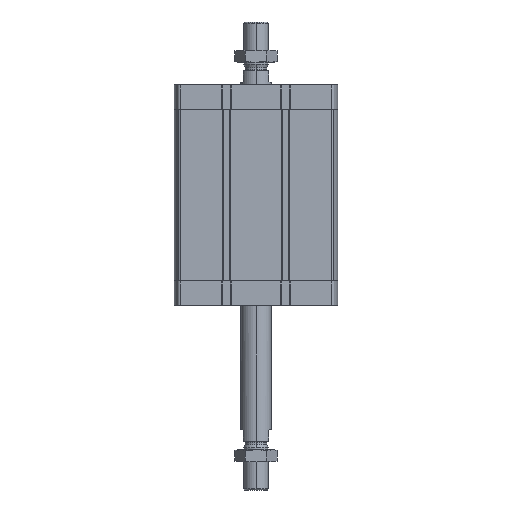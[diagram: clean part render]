
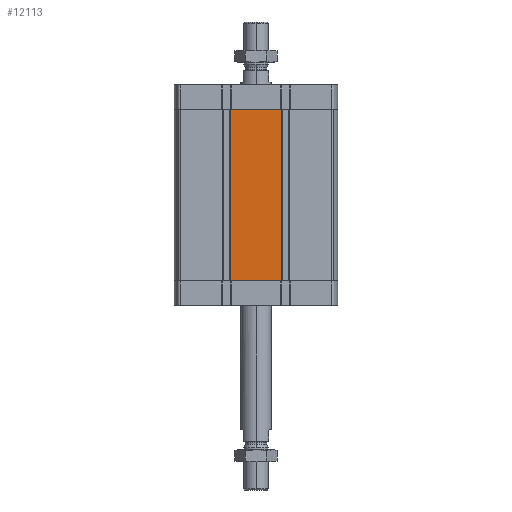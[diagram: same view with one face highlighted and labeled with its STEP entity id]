
A CAD part, left-side view. The second image highlights one B-rep face of the part: STEP entity #12113.
In plain terms, the highlighted planar face has unit normal (-1, 0, 0).
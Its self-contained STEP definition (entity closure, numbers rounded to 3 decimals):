
#19 = VECTOR ( 'NONE', #15857, 1000. ) ;
#93 = VERTEX_POINT ( 'NONE', #2193 ) ;
#130 = LINE ( 'NONE', #9329, #1867 ) ;
#664 = VERTEX_POINT ( 'NONE', #5922 ) ;
#1181 = EDGE_CURVE ( 'NONE', #4705, #7476, #130, .T. ) ;
#1824 = DIRECTION ( 'NONE',  ( -1., 0., 0. ) ) ;
#1867 = VECTOR ( 'NONE', #6550, 1000. ) ;
#2193 = CARTESIAN_POINT ( 'NONE',  ( -67., -20.687, -161. ) ) ;
#2558 = CARTESIAN_POINT ( 'NONE',  ( -67., 21.3, -161. ) ) ;
#3125 = VECTOR ( 'NONE', #19593, 1000. ) ;
#3220 = VECTOR ( 'NONE', #12132, 1000. ) ;
#4319 = EDGE_CURVE ( 'NONE', #12864, #4705, #18941, .T. ) ;
#4396 = VECTOR ( 'NONE', #9775, 1000. ) ;
#4437 = CARTESIAN_POINT ( 'NONE',  ( -67., 67., -161. ) ) ;
#4569 = AXIS2_PLACEMENT_3D ( 'NONE', #12339, #1824, #14208 ) ;
#4660 = EDGE_LOOP ( 'NONE', ( #19291, #5701, #14318, #15081, #9896, #17132, #9864, #6564 ) ) ;
#4705 = VERTEX_POINT ( 'NONE', #18921 ) ;
#5701 = ORIENTED_EDGE ( 'NONE', *, *, #10476, .T. ) ;
#5922 = CARTESIAN_POINT ( 'NONE',  ( -67., -21.3, -20. ) ) ;
#6085 = VERTEX_POINT ( 'NONE', #15629 ) ;
#6458 = VECTOR ( 'NONE', #10932, 1000. ) ;
#6550 = DIRECTION ( 'NONE',  ( 0., -1., 0. ) ) ;
#6564 = ORIENTED_EDGE ( 'NONE', *, *, #4319, .F. ) ;
#6729 = EDGE_CURVE ( 'NONE', #14556, #664, #15001, .T. ) ;
#7476 = VERTEX_POINT ( 'NONE', #18395 ) ;
#7946 = DIRECTION ( 'NONE',  ( 0., -1., 0. ) ) ;
#8088 = CARTESIAN_POINT ( 'NONE',  ( -67., 21.3, -161. ) ) ;
#8884 = CARTESIAN_POINT ( 'NONE',  ( -67., 21.3, -20. ) ) ;
#9329 = CARTESIAN_POINT ( 'NONE',  ( -67., 21.3, -20. ) ) ;
#9424 = CARTESIAN_POINT ( 'NONE',  ( -67., 67., -20. ) ) ;
#9775 = DIRECTION ( 'NONE',  ( 0., -1., 0. ) ) ;
#9836 = CARTESIAN_POINT ( 'NONE',  ( -67., -21.3, -161. ) ) ;
#9864 = ORIENTED_EDGE ( 'NONE', *, *, #1181, .F. ) ;
#9878 = LINE ( 'NONE', #8088, #4396 ) ;
#9896 = ORIENTED_EDGE ( 'NONE', *, *, #6729, .T. ) ;
#9991 = LINE ( 'NONE', #2558, #17243 ) ;
#10476 = EDGE_CURVE ( 'NONE', #16980, #6085, #16967, .T. ) ;
#10645 = CARTESIAN_POINT ( 'NONE',  ( -67., 21.3, -161. ) ) ;
#10932 = DIRECTION ( 'NONE',  ( 0., -1., 0. ) ) ;
#12113 = ADVANCED_FACE ( 'NONE', ( #17280 ), #15501, .T. ) ;
#12132 = DIRECTION ( 'NONE',  ( 0., 0., 1. ) ) ;
#12339 = CARTESIAN_POINT ( 'NONE',  ( -67., 67., -161. ) ) ;
#12864 = VERTEX_POINT ( 'NONE', #8884 ) ;
#12869 = EDGE_CURVE ( 'NONE', #16980, #12864, #9991, .T. ) ;
#12902 = CARTESIAN_POINT ( 'NONE',  ( -67., 67., -161. ) ) ;
#13550 = LINE ( 'NONE', #4437, #3125 ) ;
#14208 = DIRECTION ( 'NONE',  ( 0., 0., 1. ) ) ;
#14318 = ORIENTED_EDGE ( 'NONE', *, *, #18636, .T. ) ;
#14556 = VERTEX_POINT ( 'NONE', #9836 ) ;
#15001 = LINE ( 'NONE', #15190, #3220 ) ;
#15081 = ORIENTED_EDGE ( 'NONE', *, *, #16356, .T. ) ;
#15190 = CARTESIAN_POINT ( 'NONE',  ( -67., -21.3, -161. ) ) ;
#15501 = PLANE ( 'NONE',  #4569 ) ;
#15629 = CARTESIAN_POINT ( 'NONE',  ( -67., 20.687, -161. ) ) ;
#15857 = DIRECTION ( 'NONE',  ( 0., -1., 0. ) ) ;
#16356 = EDGE_CURVE ( 'NONE', #93, #14556, #13550, .T. ) ;
#16966 = LINE ( 'NONE', #9424, #19570 ) ;
#16967 = LINE ( 'NONE', #12902, #6458 ) ;
#16980 = VERTEX_POINT ( 'NONE', #10645 ) ;
#17132 = ORIENTED_EDGE ( 'NONE', *, *, #19401, .F. ) ;
#17243 = VECTOR ( 'NONE', #17511, 1000. ) ;
#17280 = FACE_OUTER_BOUND ( 'NONE', #4660, .T. ) ;
#17511 = DIRECTION ( 'NONE',  ( 0., 0., 1. ) ) ;
#18395 = CARTESIAN_POINT ( 'NONE',  ( -67., -20.687, -20. ) ) ;
#18636 = EDGE_CURVE ( 'NONE', #6085, #93, #9878, .T. ) ;
#18739 = CARTESIAN_POINT ( 'NONE',  ( -67., 67., -20. ) ) ;
#18921 = CARTESIAN_POINT ( 'NONE',  ( -67., 20.687, -20. ) ) ;
#18941 = LINE ( 'NONE', #18739, #19 ) ;
#19291 = ORIENTED_EDGE ( 'NONE', *, *, #12869, .F. ) ;
#19401 = EDGE_CURVE ( 'NONE', #7476, #664, #16966, .T. ) ;
#19570 = VECTOR ( 'NONE', #7946, 1000. ) ;
#19593 = DIRECTION ( 'NONE',  ( 0., -1., 0. ) ) ;
